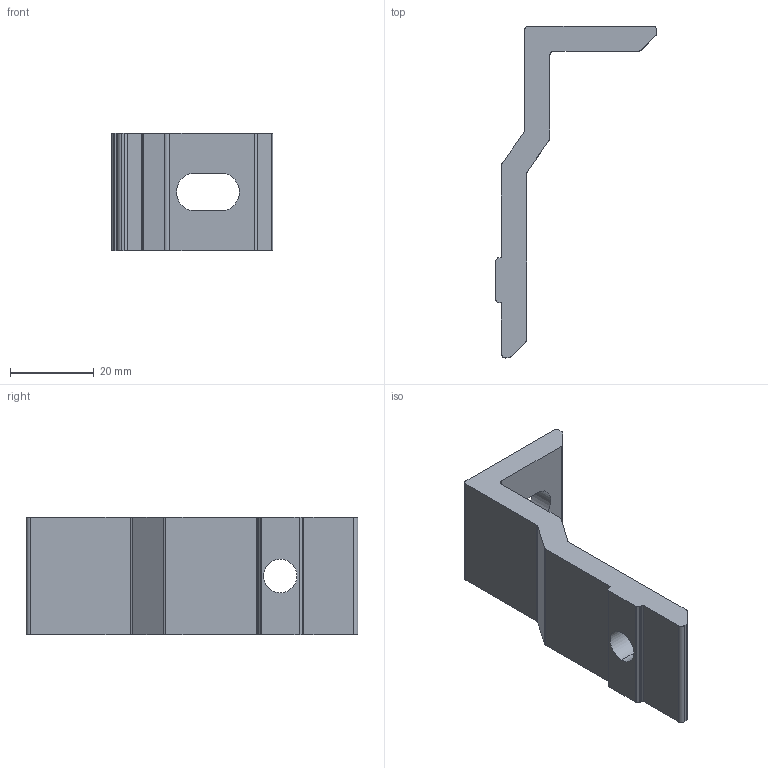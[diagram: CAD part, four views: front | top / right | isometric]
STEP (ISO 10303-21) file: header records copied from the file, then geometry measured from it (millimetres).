
FILE_DESCRIPTION (( 'STEP AP214' ), '1' );
FILE_NAME ('FGRB 22x63.step', '2017-04-05T07:37:43', ( '' ), ( '' ), 'SwSTEP 2.0', 'SolidWorks 2015', '' );
FILE_SCHEMA (( 'AUTOMOTIVE_DESIGN' ));
Length unit declared in the file: millimetre
Products named in the file (1): FGRB 22x63
Bounding box: 38.5 x 79 x 28 mm (x, y, z)
Volume: 16736.7 mm3; surface area: 7518.4 mm2
Topology: 1 solids, 1 shells, 45 faces, 129 edges, 86 vertices
Faces by surface type: cylinder 23, plane 22
Entity records: 1531 total; most frequent: DIRECTION 267, CARTESIAN_POINT 261, ORIENTED_EDGE 258, EDGE_CURVE 129, AXIS2_PLACEMENT_3D 92, VERTEX_POINT 86, LINE 83, VECTOR 83
